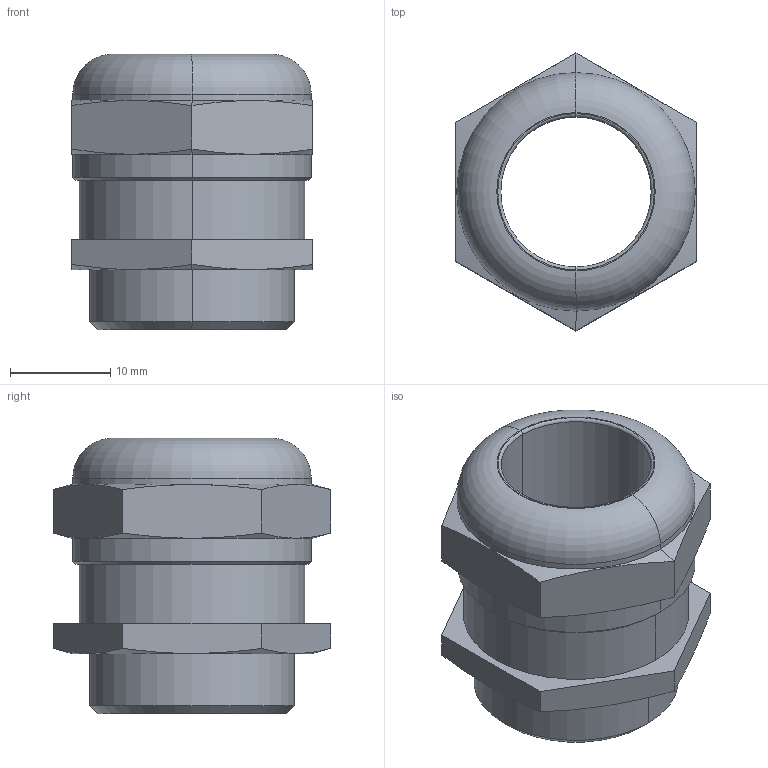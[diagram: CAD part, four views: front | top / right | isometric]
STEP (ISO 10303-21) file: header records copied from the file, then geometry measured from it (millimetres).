
FILE_DESCRIPTION (( 'STEP AP203' ), '1' );
FILE_NAME ('101013.STEP', '2006-10-04T11:22:57', ( ' ' ), ( '' ), 'SwSTEP 2.0', 'SolidWorks 2005278', '' );
FILE_SCHEMA (( 'CONFIG_CONTROL_DESIGN' ));
Length unit declared in the file: millimetre
Products named in the file (1): 101013
Bounding box: 24 x 27.71 x 27.5 mm (x, y, z)
Volume: 6553.7 mm3; surface area: 3954.6 mm2
Topology: 1 solids, 1 shells, 78 faces, 192 edges, 122 vertices
Faces by surface type: plane 54, cone 10, cylinder 10, torus 4
Entity records: 2461 total; most frequent: CARTESIAN_POINT 543, ORIENTED_EDGE 384, DIRECTION 366, EDGE_CURVE 192, LINE 140, VECTOR 140, VERTEX_POINT 122, AXIS2_PLACEMENT_3D 113
